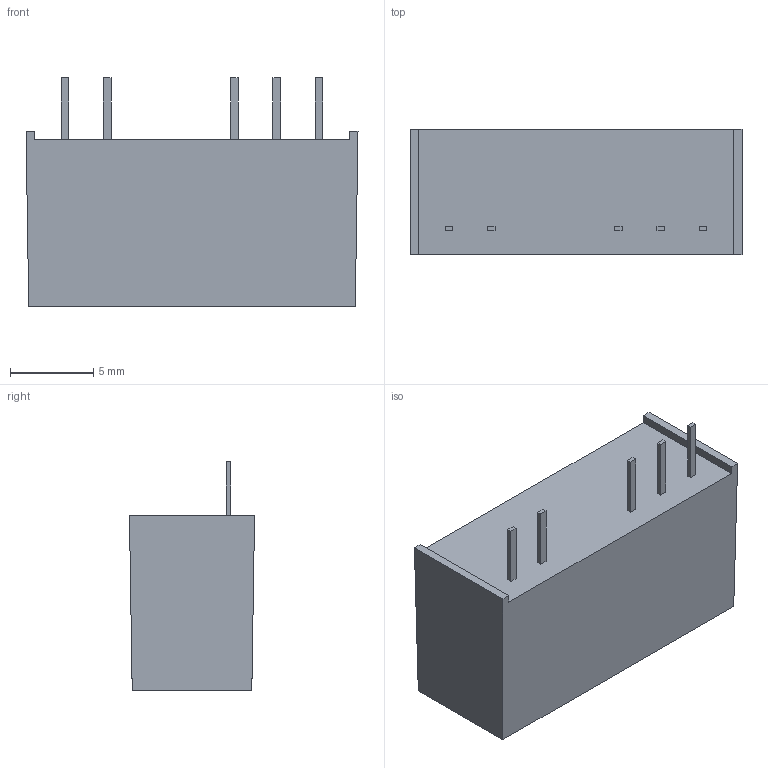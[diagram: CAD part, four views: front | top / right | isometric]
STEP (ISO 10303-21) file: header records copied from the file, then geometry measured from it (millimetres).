
FILE_DESCRIPTION(/* description */ (''),/* implementation_level */ '2;1');
FILE_NAME(/* name */ 'C:\Users\CALLIOPE\Documents\Inventor\mau100.200\3D\X2\5C3A5BF8591689C0\X0\\型錄用-STEP檔\MA01-HI+MAEU02-HI.stp',/* time_stamp */ '2015-03-13T08:25:59+08:00',/* author */ ('CALLIOPE'),/* organization */ (''),/* preprocessor_version */ 'ST-DEVELOPER v15.6',/* originating_system */ 'Autodesk Inventor 2015',/* authorisation */ '');
FILE_SCHEMA (('AUTOMOTIVE_DESIGN { 1 0 10303 214 3 1 1 }'));
Length unit declared in the file: millimetre
Products named in the file (1): MA01-HI+MAEU02-HI
Bounding box: 19.9 x 7.5 x 13.7 mm (x, y, z)
Volume: 1451.4 mm3; surface area: 872.2 mm2
Topology: 1 solids, 1 shells, 35 faces, 84 edges, 56 vertices
Faces by surface type: plane 35
Entity records: 1022 total; most frequent: CARTESIAN_POINT 176, ORIENTED_EDGE 168, DIRECTION 156, LINE 84, VECTOR 84, EDGE_CURVE 84, VERTEX_POINT 56, EDGE_LOOP 40
